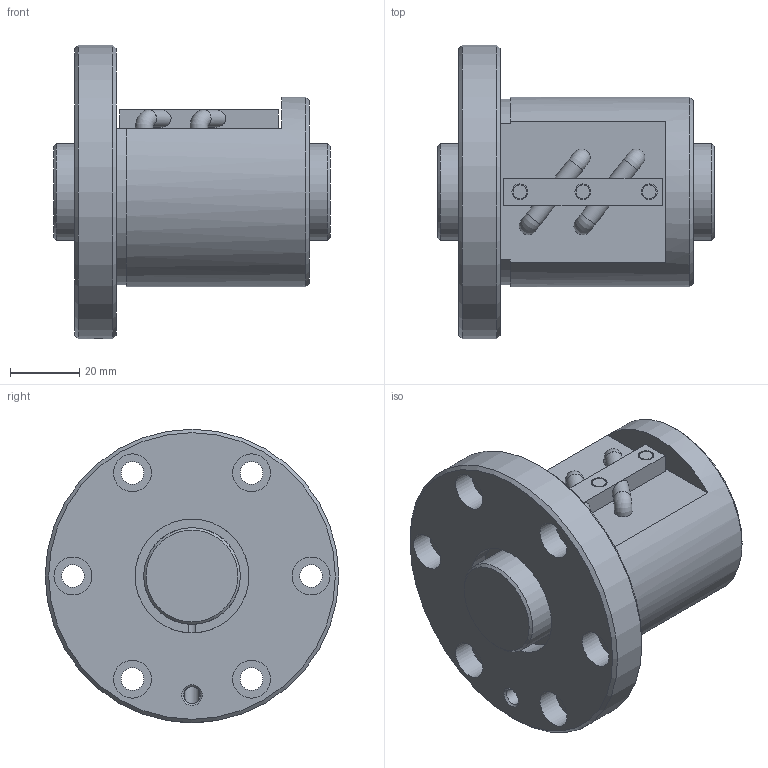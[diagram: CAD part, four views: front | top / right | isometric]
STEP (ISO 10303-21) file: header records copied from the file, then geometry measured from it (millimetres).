
FILE_DESCRIPTION(/* description */ ('STEP AP203'),/* implementation_level */ '2;1');
FILE_NAME(/* name */ 'BIF2806V-5RRG0+80LC0_000',/* time_stamp */ '2024-07-15T08:18:22+02:00',/* author */ ('License CC BY-ND 4.0'),/* organization */ ('CADENAS'),/* preprocessor_version */ 'ST-DEVELOPER v19.3',/* originating_system */ 'PARTsolutions',/* authorisation */ ' ');
FILE_SCHEMA (('CONFIG_CONTROL_DESIGN'));
Length unit declared in the file: millimetre
Products named in the file (3): BIF2806V-5RRG0+80LC0_000; BIF2806V-5RR000 Shaft; BIF2806V-5RR Nut
Assembly tree (2 placements, depth 2):
  BIF2806V-5RRG0+80LC0_000
    BIF2806V-5RR000 Shaft
    BIF2806V-5RR Nut
Bounding box: 80 x 85 x 85 mm (x, y, z)
Volume: 190410.8 mm3; surface area: 40568.5 mm2
Topology: 2 solids, 2 shells, 89 faces, 208 edges, 131 vertices
Faces by surface type: plane 41, cylinder 36, cone 8, torus 4
Full cylindrical faces by diameter (mm): 4 x3, 4.25 x2, 4.6 x3, 4.917 x1, 5.1 x4, 6.6 x6, 11 x6, 28 x2, 33 x2, 55 x1, 85 x1
Entity records: 2401 total; most frequent: CARTESIAN_POINT 455, DIRECTION 424, ORIENTED_EDGE 298, AXIS2_PLACEMENT_3D 194, EDGE_LOOP 164, FACE_BOUND 164, EDGE_CURVE 149, VERTEX_POINT 115
